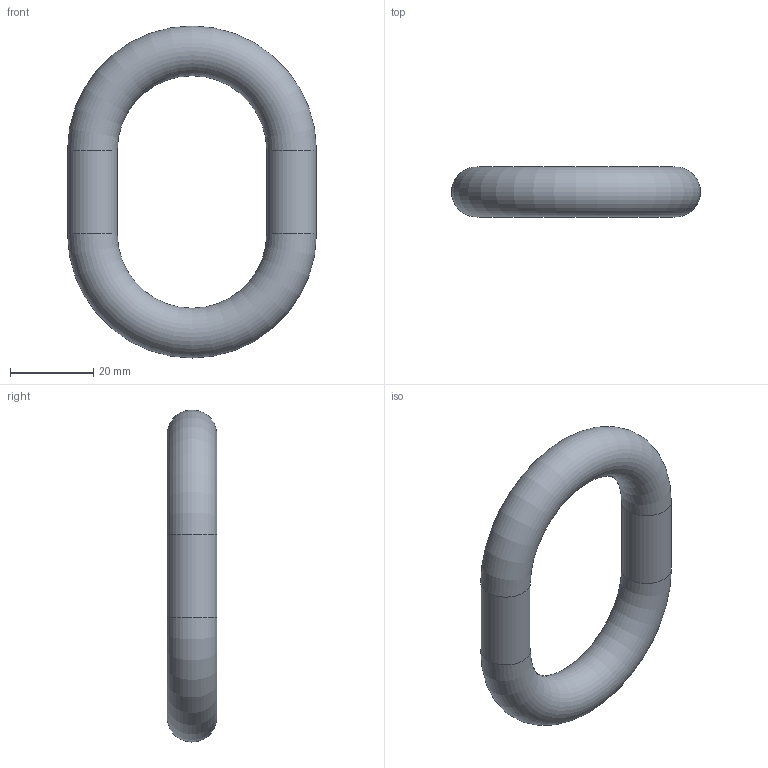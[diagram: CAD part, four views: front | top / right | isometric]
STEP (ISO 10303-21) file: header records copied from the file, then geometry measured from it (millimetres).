
FILE_DESCRIPTION(('Open CASCADE Model'),'2;1');
FILE_NAME('Open CASCADE Shape Model','2026-10-20T13:19:55',('Author'),( 'Open CASCADE'),'Open CASCADE STEP processor 7.9','Open CASCADE 7.9' ,'Unknown');
FILE_SCHEMA(('AUTOMOTIVE_DESIGN { 1 0 10303 214 1 1 1 1 }'));
Length unit declared in the file: millimetre
Products named in the file (1): Open CASCADE STEP translator 7.9 87
Bounding box: 60 x 12 x 80 mm (x, y, z)
Volume: 21578.6 mm3; surface area: 7192.9 mm2
Topology: 1 solids, 1 shells, 4 faces, 8 edges, 4 vertices
Faces by surface type: cylinder 2, torus 2
Full cylindrical faces by diameter (mm): 12 x2
Entity records: 216 total; most frequent: CARTESIAN_POINT 41, DIRECTION 32, ORIENTED_EDGE 16, PCURVE 16, DEFINITIONAL_REPRESENTATION 16, AXIS2_PLACEMENT_3D 11, LINE 10, VECTOR 10
